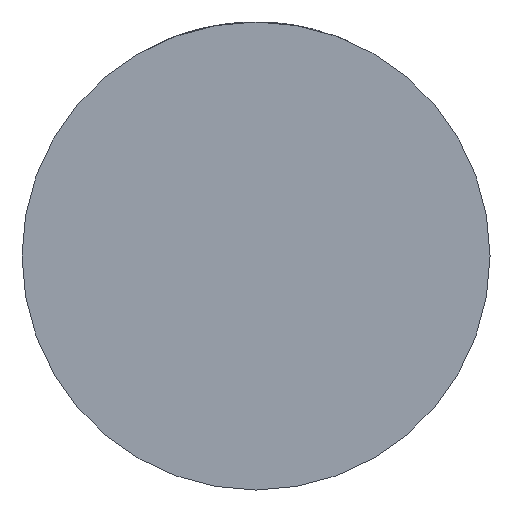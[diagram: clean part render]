
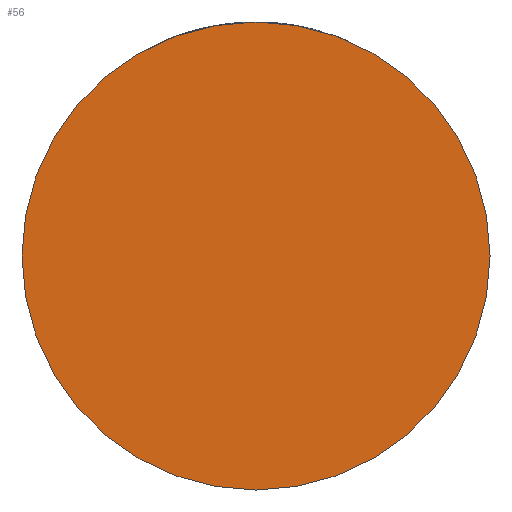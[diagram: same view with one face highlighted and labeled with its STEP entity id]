
A CAD part, front view. The second image highlights one B-rep face of the part: STEP entity #56.
In plain terms, the highlighted planar face has unit normal (0, -1, 0).
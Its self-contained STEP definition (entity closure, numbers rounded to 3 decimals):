
#35 = DIRECTION ( 'NONE',  ( 0., -1., 0. ) ) ;
#56 = ADVANCED_FACE ( 'NONE', ( #989 ), #3054, .T. ) ;
#225 = DIRECTION ( 'NONE',  ( 1., 0., 0. ) ) ;
#525 = CIRCLE ( 'NONE', #730, 32. ) ;
#675 = DIRECTION ( 'NONE',  ( 0., -1., 0. ) ) ;
#730 = AXIS2_PLACEMENT_3D ( 'NONE', #3065, #35, #1383 ) ;
#817 = AXIS2_PLACEMENT_3D ( 'NONE', #1637, #2288, #225 ) ;
#989 = FACE_OUTER_BOUND ( 'NONE', #2859, .T. ) ;
#1019 = VERTEX_POINT ( 'NONE', #1573 ) ;
#1383 = DIRECTION ( 'NONE',  ( 1., 0., 0. ) ) ;
#1480 = CARTESIAN_POINT ( 'NONE',  ( 32., -25., 0. ) ) ;
#1516 = EDGE_CURVE ( 'NONE', #3878, #1019, #3886, .T. ) ;
#1573 = CARTESIAN_POINT ( 'NONE',  ( -32., -25., 0. ) ) ;
#1637 = CARTESIAN_POINT ( 'NONE',  ( 0., -25., 0. ) ) ;
#1667 = DIRECTION ( 'NONE',  ( 1., 0., 0. ) ) ;
#1797 = ORIENTED_EDGE ( 'NONE', *, *, #1516, .T. ) ;
#2288 = DIRECTION ( 'NONE',  ( 0., -1., 0. ) ) ;
#2859 = EDGE_LOOP ( 'NONE', ( #4045, #1797 ) ) ;
#2971 = EDGE_CURVE ( 'NONE', #1019, #3878, #525, .T. ) ;
#3054 = PLANE ( 'NONE',  #3521 ) ;
#3065 = CARTESIAN_POINT ( 'NONE',  ( 0., -25., 0. ) ) ;
#3075 = CARTESIAN_POINT ( 'NONE',  ( 0., -25., 0. ) ) ;
#3521 = AXIS2_PLACEMENT_3D ( 'NONE', #3075, #675, #1667 ) ;
#3878 = VERTEX_POINT ( 'NONE', #1480 ) ;
#3886 = CIRCLE ( 'NONE', #817, 32. ) ;
#4045 = ORIENTED_EDGE ( 'NONE', *, *, #2971, .T. ) ;
